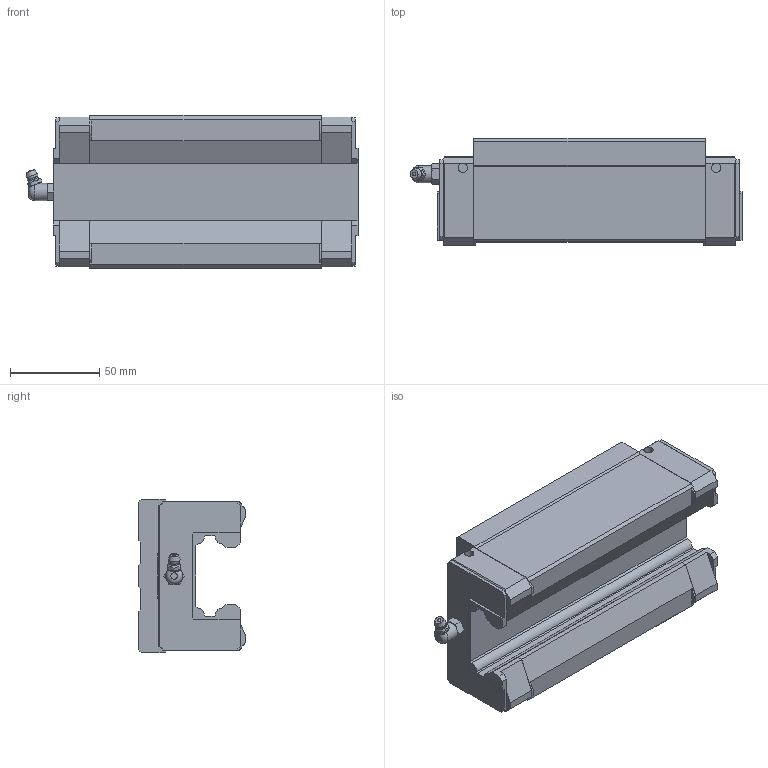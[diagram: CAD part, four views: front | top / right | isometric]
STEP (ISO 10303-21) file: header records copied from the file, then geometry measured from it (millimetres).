
FILE_DESCRIPTION(/* description */ ('STEP AP214'),/* implementation_level */ '2;1');
FILE_NAME(/* name */ 'HSR45LR1SS(GK) BLOCK(B-PT1_81)',/* time_stamp */ '2023-06-01T07:59:14+02:00',/* author */ ('License CC BY-ND 4.0'),/* organization */ ('CADENAS'),/* preprocessor_version */ 'ST-DEVELOPER v19.3',/* originating_system */ 'PARTsolutions',/* authorisation */ ' ');
FILE_SCHEMA (('AUTOMOTIVE_DESIGN {1 0 10303 214 3 1 1}'));
Length unit declared in the file: millimetre
Products named in the file (3): HSR45LR1SS(GK) BLOCK(B-PT1/81); hsr_ftht_B-PT1/8_grease_nipple_joint; HSR45LRSSB-PT1/811R2S
Assembly tree (2 placements, depth 2):
  HSR45LR1SS(GK) BLOCK(B-PT1/81)
    hsr_ftht_B-PT1/8_grease_nipple_joint
    HSR45LRSSB-PT1/811R2S
Bounding box: 186 x 60 x 86 mm (x, y, z)
Volume: 604874.2 mm3; surface area: 73841.9 mm2
Topology: 2 solids, 2 shells, 227 faces, 618 edges, 399 vertices
Faces by surface type: plane 183, cone 20, cylinder 19, torus 3, sphere 2
Full cylindrical faces by diameter (mm): 5.2 x4, 8.376 x4, 9.6 x1, 10.2 x2
Entity records: 6862 total; most frequent: CARTESIAN_POINT 1311, ORIENTED_EDGE 1130, DIRECTION 1060, EDGE_CURVE 565, LINE 476, VECTOR 476, VERTEX_POINT 388, AXIS2_PLACEMENT_3D 292
